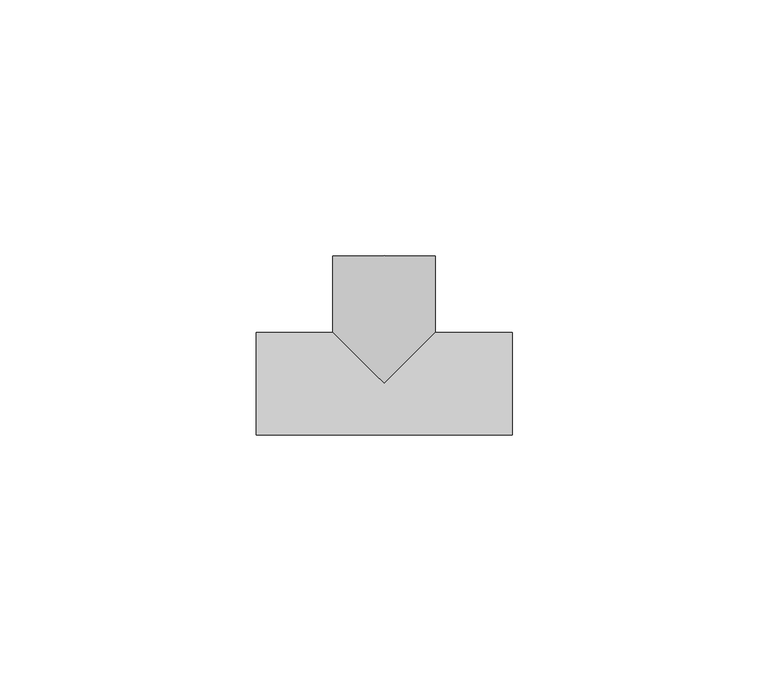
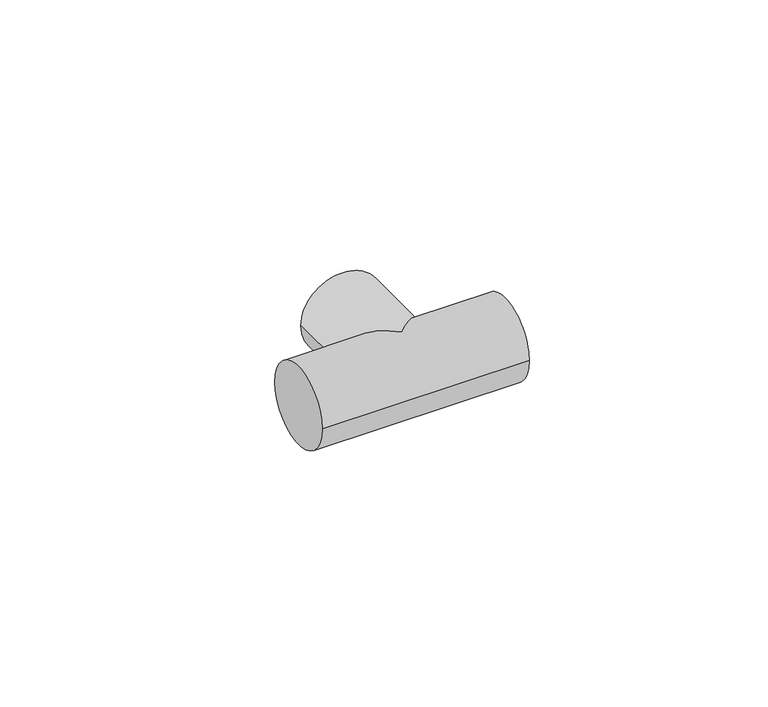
"""IFC4 building model written with IfcOpenShell, lengths in millimetres: cable carrier fitting geometry, Тройник_соед._для_трубы : Тройник соед. для трубы 16 мм (5шт) сосна."""

from ifc_helpers import new_model, si_unit, frame, origin, place, context, project, spatial, circle_curve, ellipse_curve, source, transform, mapped, element, save
from ifc_brep_helpers import plane_surface, cylinder_surface, advanced_brep


def cable_carrier_fitting_8a820bfa(model_context):
    return source(origin(), model_context, "Body", "AdvancedBrep", [
        advanced_brep(
        [(25.0, -10.0, 0.0), (25.0, 10.0, 0.0), (-25.0, -10.0, 0.0), (-25.0, 10.0, 0.0), (-10.0, 10.0, 0.0), (0.0, 0.0, -10.0), (10.0, 10.0, 0.0), (0.0, 0.0, 10.0), (-10.0, 25.0, 0.0), (10.0, 25.0, 0.0)],
        [
            (0, 1, circle_curve(frame((25.0, 0.0, 0.0), z_axis=(1.0, 0.0, 0.0), x_axis=(0.0, 1.0, 0.0)), 10.0)),
            (1, 0, circle_curve(frame((25.0, 0.0, 0.0), z_axis=(1.0, 0.0, 0.0), x_axis=(0.0, 1.0, 0.0)), 10.0)),
            (2, 3, circle_curve(frame((-25.0, 0.0, 0.0), z_axis=(-1.0, 0.0, 0.0), x_axis=(0.0, 1.0, 0.0)), 10.0)),
            (3, 2, circle_curve(frame((-25.0, 0.0, 0.0), z_axis=(-1.0, 0.0, 0.0), x_axis=(0.0, 1.0, 0.0)), 10.0)),
            (0, 2),
            (3, 4),
            (4, 5, ellipse_curve(frame((0.0, 0.0, 0.0), z_axis=(-0.7071067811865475, -0.7071067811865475, 0.0), x_axis=(0.7071067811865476, -0.7071067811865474, 0.0)), 14.1421356, 10.0)),
            (5, 6, ellipse_curve(frame((0.0, 0.0, 0.0), z_axis=(0.7071067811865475, -0.7071067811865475, 0.0), x_axis=(0.7071067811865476, 0.7071067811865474, 0.0)), 14.1421356, 10.0)),
            (6, 1),
            (6, 7, ellipse_curve(frame((0.0, 0.0, 0.0), z_axis=(0.7071067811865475, -0.7071067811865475, 0.0), x_axis=(0.7071067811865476, 0.7071067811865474, 0.0)), 14.1421356, 10.0)),
            (7, 4, ellipse_curve(frame((0.0, 0.0, 0.0), z_axis=(-0.7071067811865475, -0.7071067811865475, 0.0), x_axis=(0.7071067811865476, -0.7071067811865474, 0.0)), 14.1421356, 10.0)),
            (8, 9, circle_curve(frame((0.0, 25.0, 0.0), z_axis=(0.0, 1.0, 0.0), x_axis=(0.9999999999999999, 0.0, 0.0)), 10.0)),
            (9, 8, circle_curve(frame((0.0, 25.0, 0.0), z_axis=(0.0, 1.0, 0.0), x_axis=(0.9999999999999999, 0.0, 0.0)), 10.0)),
            (9, 6),
            (4, 8),
        ],
        [
            plane_surface(frame((25.0, 10.0, 0.0), z_axis=(1.0, 0.0, 0.0), x_axis=(0.0, 0.0, 1.0))),
            plane_surface(frame((-25.0, 10.0, 0.0), z_axis=(-1.0, 0.0, 0.0), x_axis=(0.0, 0.0, -1.0))),
            cylinder_surface(frame((-25.0, 0.0, 0.0), z_axis=(0.9999999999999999, 0.0, 0.0), x_axis=(0.0, 1.0, 0.0)), 10.0),
            plane_surface(frame((10.0, 25.0, 0.0), z_axis=(0.0, 1.0, 0.0), x_axis=(0.0, 0.0, -1.0))),
            cylinder_surface(frame((0.0, 25.0, 0.0), z_axis=(0.0, -0.9999999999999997, 0.0), x_axis=(0.9999999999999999, 0.0, 0.0)), 10.0),
        ],
        [
            (0, [[1, 2]]),
            (1, [[3, 4]]),
            (2, [[-1, 5, -4, 6, 7, 8, 9]]),
            (2, [[-2, -9, 10, 11, -6, -3, -5]]),
            (3, [[12, 13]]),
            (4, [[-13, 14, -8, -7, 15]]),
            (4, [[-12, -15, -11, -10, -14]]),
        ],
    ),
    ])


if __name__ == "__main__":
    model = new_model("IFC4")
    model_context = context("Model", 3, world=origin())
    ifc_project = project(units=[si_unit("LENGTHUNIT", "METRE", prefix="MILLI")], contexts=[model_context])
    site = spatial("IfcSite", under=ifc_project)
    building = spatial("IfcBuilding", under=site)
    placement = place(None, origin())
    cable_carrier_fitting_shape = cable_carrier_fitting_8a820bfa(model_context)
    element("IfcCableCarrierFitting", 1, ObjectType="Тройник_соед._для_трубы : Тройник соед. для трубы 16 мм (5шт) сосна", at=placement, inside=building, context=model_context, shape_type="MappedRepresentation", body=[
        mapped(cable_carrier_fitting_shape, transform((0.0, 0.0, 0.0), x_axis=(1.0, 0.0, 0.0), y_axis=(0.0, 1.0, 0.0), z_axis=(0.0, 0.0, 1.0))),
    ])
    save(model, "model.ifc")
